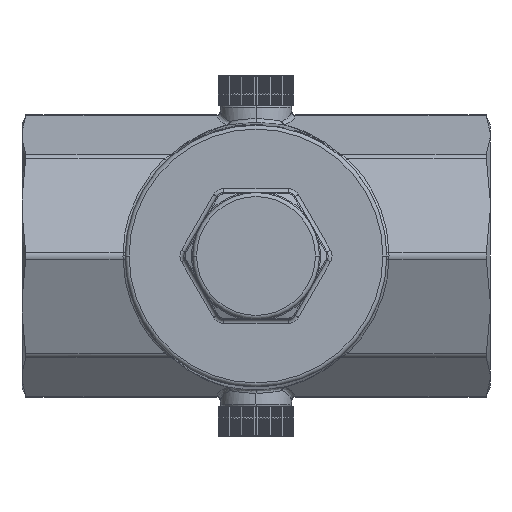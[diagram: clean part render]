
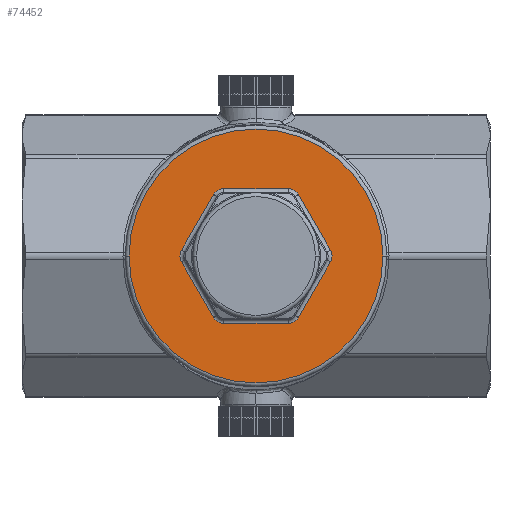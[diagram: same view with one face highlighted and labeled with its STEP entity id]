
A CAD part, front view. The second image highlights one B-rep face of the part: STEP entity #74452.
In plain terms, the highlighted planar face has unit normal (0, -1, 0).
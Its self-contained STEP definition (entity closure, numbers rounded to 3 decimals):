
#73003=CARTESIAN_POINT('',(0.,26.,0.));
#73004=DIRECTION('',(0.,1.,0.));
#73005=DIRECTION('',(-1.,0.,0.));
#73006=AXIS2_PLACEMENT_3D('',#73003,#73004,#73005);
#73008=CARTESIAN_POINT('',(0.,26.,0.));
#73009=DIRECTION('',(0.,-1.,0.));
#73010=DIRECTION('',(-1.,0.,0.));
#73011=AXIS2_PLACEMENT_3D('',#73008,#73009,#73010);
#73013=CARTESIAN_POINT('',(-16.166,26.,0.));
#73014=DIRECTION('',(0.,-1.,0.));
#73015=DIRECTION('',(-0.866,0.,0.5));
#73016=AXIS2_PLACEMENT_3D('',#73013,#73014,#73015);
#73018=DIRECTION('',(0.5,0.,-0.866));
#73019=VECTOR('',#73018,16.166);
#73020=CARTESIAN_POINT('',(-18.764,26.,-1.5));
#73021=LINE('',#73020,#73019);
#73022=CARTESIAN_POINT('',(-8.083,26.,-14.));
#73023=DIRECTION('',(0.,-1.,0.));
#73024=DIRECTION('',(-0.866,0.,-0.5));
#73025=AXIS2_PLACEMENT_3D('',#73022,#73023,#73024);
#73027=DIRECTION('',(1.,0.,0.));
#73028=VECTOR('',#73027,16.166);
#73029=CARTESIAN_POINT('',(-8.083,26.,-17.));
#73030=LINE('',#73029,#73028);
#73031=CARTESIAN_POINT('',(8.083,26.,-14.));
#73032=DIRECTION('',(0.,-1.,0.));
#73033=DIRECTION('',(0.,0.,-1.));
#73034=AXIS2_PLACEMENT_3D('',#73031,#73032,#73033);
#73036=DIRECTION('',(0.5,0.,0.866));
#73037=VECTOR('',#73036,16.166);
#73038=CARTESIAN_POINT('',(10.681,26.,-15.5));
#73039=LINE('',#73038,#73037);
#73040=CARTESIAN_POINT('',(16.166,26.,0.));
#73041=DIRECTION('',(0.,-1.,0.));
#73042=DIRECTION('',(0.866,0.,-0.5));
#73043=AXIS2_PLACEMENT_3D('',#73040,#73041,#73042);
#73045=DIRECTION('',(-0.5,0.,0.866));
#73046=VECTOR('',#73045,16.166);
#73047=CARTESIAN_POINT('',(18.764,26.,1.5));
#73048=LINE('',#73047,#73046);
#73049=CARTESIAN_POINT('',(8.083,26.,14.));
#73050=DIRECTION('',(0.,-1.,0.));
#73051=DIRECTION('',(0.866,0.,0.5));
#73052=AXIS2_PLACEMENT_3D('',#73049,#73050,#73051);
#73054=DIRECTION('',(-1.,0.,0.));
#73055=VECTOR('',#73054,16.166);
#73056=CARTESIAN_POINT('',(8.083,26.,17.));
#73057=LINE('',#73056,#73055);
#73058=CARTESIAN_POINT('',(-8.083,26.,14.));
#73059=DIRECTION('',(0.,-1.,0.));
#73060=DIRECTION('',(0.,0.,1.));
#73061=AXIS2_PLACEMENT_3D('',#73058,#73059,#73060);
#73063=DIRECTION('',(-0.5,0.,-0.866));
#73064=VECTOR('',#73063,16.166);
#73065=CARTESIAN_POINT('',(-10.681,26.,15.5));
#73066=LINE('',#73065,#73064);
#73969=CARTESIAN_POINT('',(-32.,26.,0.));
#73970=VERTEX_POINT('',#73969);
#73975=CARTESIAN_POINT('',(32.,26.,0.));
#73976=VERTEX_POINT('',#73975);
#74009=CARTESIAN_POINT('',(-18.764,26.,1.5));
#74010=CARTESIAN_POINT('',(-18.764,26.,-1.5));
#74011=VERTEX_POINT('',#74009);
#74012=VERTEX_POINT('',#74010);
#74017=CARTESIAN_POINT('',(-10.681,26.,-15.5));
#74018=VERTEX_POINT('',#74017);
#74021=CARTESIAN_POINT('',(-8.083,26.,-17.));
#74022=VERTEX_POINT('',#74021);
#74025=CARTESIAN_POINT('',(8.083,26.,-17.));
#74026=VERTEX_POINT('',#74025);
#74029=CARTESIAN_POINT('',(10.681,26.,-15.5));
#74030=VERTEX_POINT('',#74029);
#74033=CARTESIAN_POINT('',(18.764,26.,-1.5));
#74034=VERTEX_POINT('',#74033);
#74037=CARTESIAN_POINT('',(18.764,26.,1.5));
#74038=VERTEX_POINT('',#74037);
#74041=CARTESIAN_POINT('',(10.681,26.,15.5));
#74042=VERTEX_POINT('',#74041);
#74045=CARTESIAN_POINT('',(8.083,26.,17.));
#74046=VERTEX_POINT('',#74045);
#74049=CARTESIAN_POINT('',(-8.083,26.,17.));
#74050=VERTEX_POINT('',#74049);
#74053=CARTESIAN_POINT('',(-10.681,26.,15.5));
#74054=VERTEX_POINT('',#74053);
#74417=CARTESIAN_POINT('',(0.,26.,0.));
#74418=DIRECTION('',(0.,1.,0.));
#74419=DIRECTION('',(1.,0.,0.));
#74420=AXIS2_PLACEMENT_3D('',#74417,#74418,#74419);
#74421=PLANE('',#74420);
#74422=ORIENTED_EDGE('',*,*,#74399,.T.);
#74423=ORIENTED_EDGE('',*,*,#74410,.F.);
#74424=EDGE_LOOP('',(#74422,#74423));
#74425=FACE_OUTER_BOUND('',#74424,.F.);
#74427=ORIENTED_EDGE('',*,*,#74426,.T.);
#74429=ORIENTED_EDGE('',*,*,#74428,.T.);
#74431=ORIENTED_EDGE('',*,*,#74430,.T.);
#74433=ORIENTED_EDGE('',*,*,#74432,.T.);
#74435=ORIENTED_EDGE('',*,*,#74434,.T.);
#74437=ORIENTED_EDGE('',*,*,#74436,.T.);
#74439=ORIENTED_EDGE('',*,*,#74438,.T.);
#74441=ORIENTED_EDGE('',*,*,#74440,.T.);
#74443=ORIENTED_EDGE('',*,*,#74442,.T.);
#74445=ORIENTED_EDGE('',*,*,#74444,.T.);
#74447=ORIENTED_EDGE('',*,*,#74446,.T.);
#74449=ORIENTED_EDGE('',*,*,#74448,.T.);
#74450=EDGE_LOOP('',(#74427,#74429,#74431,#74433,#74435,#74437,#74439,#74441,
#74443,#74445,#74447,#74449));
#74451=FACE_BOUND('',#74450,.F.);
#74452=ADVANCED_FACE('',(#74425,#74451),#74421,.F.);
#73007=CIRCLE('',#73006,32.);
#73012=CIRCLE('',#73011,32.);
#73017=CIRCLE('',#73016,3.);
#73026=CIRCLE('',#73025,3.);
#73035=CIRCLE('',#73034,3.);
#73044=CIRCLE('',#73043,3.);
#73053=CIRCLE('',#73052,3.);
#73062=CIRCLE('',#73061,3.);
#74399=EDGE_CURVE('',#73970,#73976,#73007,.T.);
#74410=EDGE_CURVE('',#73970,#73976,#73012,.T.);
#74426=EDGE_CURVE('',#74011,#74012,#73017,.T.);
#74428=EDGE_CURVE('',#74012,#74018,#73021,.T.);
#74430=EDGE_CURVE('',#74018,#74022,#73026,.T.);
#74432=EDGE_CURVE('',#74022,#74026,#73030,.T.);
#74434=EDGE_CURVE('',#74026,#74030,#73035,.T.);
#74436=EDGE_CURVE('',#74030,#74034,#73039,.T.);
#74438=EDGE_CURVE('',#74034,#74038,#73044,.T.);
#74440=EDGE_CURVE('',#74038,#74042,#73048,.T.);
#74442=EDGE_CURVE('',#74042,#74046,#73053,.T.);
#74444=EDGE_CURVE('',#74046,#74050,#73057,.T.);
#74446=EDGE_CURVE('',#74050,#74054,#73062,.T.);
#74448=EDGE_CURVE('',#74054,#74011,#73066,.T.);
